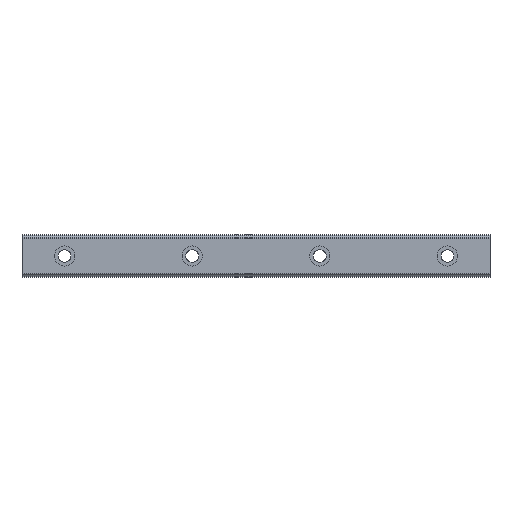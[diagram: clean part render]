
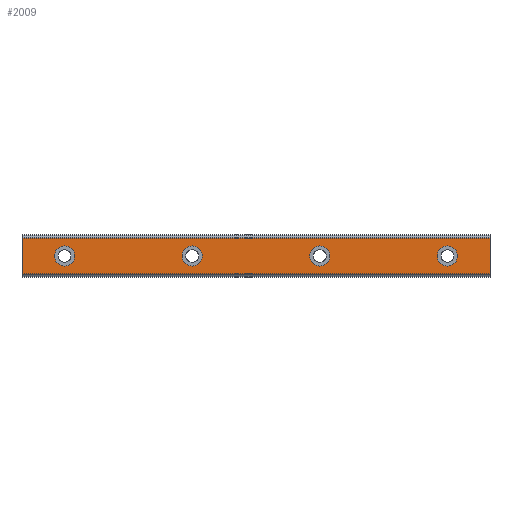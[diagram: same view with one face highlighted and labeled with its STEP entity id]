
A CAD part, top view. The second image highlights one B-rep face of the part: STEP entity #2009.
In plain terms, the highlighted planar face has unit normal (0, 0, 1).
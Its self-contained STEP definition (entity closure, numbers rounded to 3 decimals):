
#1662=CARTESIAN_POINT('POINT119',(200.,-8.334,
   15.5));
#1663=VERTEX_POINT('VERTEX119',#1662);
#1670=CARTESIAN_POINT('POINT120',(-20.,-8.334,
   15.5));
#1671=VERTEX_POINT('VERTEX120',#1670);
#1672=CARTESIAN_POINT('POS177',(-20.,-8.334,
   15.5));
#1673=DIRECTION('DIR274',(1.,0.,0.));
#1674=VECTOR('VEC80',#1673,1.);
#1675=LINE('STRAIGHT80',#1672,#1674);
#1676=EDGE_CURVE('EDGE178',#1671,#1663,#1675,.T.);
#1712=CARTESIAN_POINT('POINT121',(-20.,8.334,
   15.5));
#1713=VERTEX_POINT('VERTEX121',#1712);
#1714=CARTESIAN_POINT('POS180',(-20.,-8.334,
   15.5));
#1715=DIRECTION('DIR278',(0.,1.,0.));
#1716=VECTOR('VEC82',#1715,1.);
#1717=LINE('STRAIGHT82',#1714,#1716);
#1718=EDGE_CURVE('EDGE180',#1671,#1713,#1717,.T.);
#1751=CARTESIAN_POINT('POINT122',(200.,8.334,
   15.5));
#1752=VERTEX_POINT('VERTEX122',#1751);
#1761=CARTESIAN_POINT('POS184',(-20.,8.334,
   15.5));
#1762=DIRECTION('DIR283',(1.,0.,0.));
#1763=VECTOR('VEC85',#1762,1.);
#1764=LINE('STRAIGHT85',#1761,#1763);
#1765=EDGE_CURVE('EDGE183',#1713,#1752,#1764,.T.);
#1795=CARTESIAN_POINT('POS186',(200.,0.,
   15.5));
#1796=DIRECTION('DIR286',(0.,1.,0.));
#1797=VECTOR('VEC86',#1796,1.);
#1798=LINE('STRAIGHT86',#1795,#1797);
#1799=EDGE_CURVE('EDGE184',#1663,#1752,#1798,.T.);
#1826=CARTESIAN_POINT('POINT123',(64.75,0.,
   15.5));
#1827=VERTEX_POINT('VERTEX123',#1826);
#1835=CARTESIAN_POINT('POINT124',(55.25,0.,
   15.5));
#1836=VERTEX_POINT('VERTEX124',#1835);
#1843=CARTESIAN_POINT('POS190',(60.,0.,15.5));
#1844=DIRECTION('DIR291',(0.,0.,-1.));
#1845=DIRECTION('DIR292',(1.,0.,0.));
#1846=AXIS2_PLACEMENT_3D('AXIS102',#1843,#1844,#1845);
#1847=CIRCLE('ELLIPSE56',#1846,4.75);
#1848=EDGE_CURVE('EDGE187',#1827,#1836,#1847,.T.);
#1859=EDGE_CURVE('EDGE188',#1836,#1827,#1847,.T.);
#1866=CARTESIAN_POINT('POINT125',(124.75,0.,
   15.5));
#1867=VERTEX_POINT('VERTEX125',#1866);
#1875=CARTESIAN_POINT('POINT126',(115.25,0.,
   15.5));
#1876=VERTEX_POINT('VERTEX126',#1875);
#1883=CARTESIAN_POINT('POS194',(120.,0.,15.5));
#1884=DIRECTION('DIR297',(0.,0.,-1.));
#1885=DIRECTION('DIR298',(1.,0.,0.));
#1886=AXIS2_PLACEMENT_3D('AXIS104',#1883,#1884,#1885);
#1887=CIRCLE('ELLIPSE57',#1886,4.75);
#1888=EDGE_CURVE('EDGE191',#1867,#1876,#1887,.T.);
#1899=EDGE_CURVE('EDGE192',#1876,#1867,#1887,.T.);
#1906=CARTESIAN_POINT('POINT127',(184.75,0.,
   15.5));
#1907=VERTEX_POINT('VERTEX127',#1906);
#1915=CARTESIAN_POINT('POINT128',(175.25,0.,
   15.5));
#1916=VERTEX_POINT('VERTEX128',#1915);
#1923=CARTESIAN_POINT('POS198',(180.,0.,15.5));
#1924=DIRECTION('DIR303',(0.,0.,-1.));
#1925=DIRECTION('DIR304',(1.,0.,0.));
#1926=AXIS2_PLACEMENT_3D('AXIS106',#1923,#1924,#1925);
#1927=CIRCLE('ELLIPSE58',#1926,4.75);
#1928=EDGE_CURVE('EDGE195',#1907,#1916,#1927,.T.);
#1939=EDGE_CURVE('EDGE196',#1916,#1907,#1927,.T.);
#1971=ORIENTED_EDGE('COEDGE385',*,*,#1939,.T.);
#1972=ORIENTED_EDGE('COEDGE386',*,*,#1928,.T.);
#1973=EDGE_LOOP('NONE',(#1971,#1972));
#1974=FACE_BOUND('LOOP1',#1973,.T.);
#1975=ORIENTED_EDGE('COEDGE387',*,*,#1899,.T.);
#1976=ORIENTED_EDGE('COEDGE388',*,*,#1888,.T.);
#1977=EDGE_LOOP('NONE',(#1975,#1976));
#1978=FACE_BOUND('LOOP1',#1977,.T.);
#1979=ORIENTED_EDGE('COEDGE389',*,*,#1859,.T.);
#1980=ORIENTED_EDGE('COEDGE390',*,*,#1848,.T.);
#1981=EDGE_LOOP('NONE',(#1979,#1980));
#1982=FACE_BOUND('LOOP1',#1981,.T.);
#1983=CARTESIAN_POINT('POINT131',(-4.75,0.,
   15.5));
#1984=VERTEX_POINT('VERTEX131',#1983);
#1985=CARTESIAN_POINT('POINT132',(4.75,0.,
   15.5));
#1986=VERTEX_POINT('VERTEX132',#1985);
#1987=CARTESIAN_POINT('POS202',(0.,0.,15.5));
#1988=DIRECTION('DIR311',(0.,0.,-1.));
#1989=DIRECTION('DIR312',(1.,0.,0.));
#1990=AXIS2_PLACEMENT_3D('AXIS110',#1987,#1988,#1989);
#1991=CIRCLE('ELLIPSE60',#1990,4.75);
#1992=EDGE_CURVE('EDGE199',#1984,#1986,#1991,.T.);
#1993=ORIENTED_EDGE('COEDGE391',*,*,#1992,.T.);
#1994=EDGE_CURVE('EDGE200',#1986,#1984,#1991,.T.);
#1995=ORIENTED_EDGE('COEDGE392',*,*,#1994,.T.);
#1996=EDGE_LOOP('NONE',(#1993,#1995));
#1997=FACE_BOUND('LOOP1',#1996,.T.);
#1998=ORIENTED_EDGE('COEDGE393',*,*,#1799,.T.);
#1999=ORIENTED_EDGE('COEDGE394',*,*,#1765,.F.);
#2000=ORIENTED_EDGE('COEDGE395',*,*,#1718,.F.);
#2001=ORIENTED_EDGE('COEDGE396',*,*,#1676,.T.);
#2002=EDGE_LOOP('NONE',(#1998,#1999,#2000,#2001));
#2003=FACE_BOUND('LOOP1',#2002,.T.);
#2004=CARTESIAN_POINT('POS203',(-20.,0.,
   15.5));
#2005=DIRECTION('DIR313',(0.,0.,1.));
#2006=DIRECTION('DIR314',(1.,0.,0.));
#2007=AXIS2_PLACEMENT_3D('AXIS111',#2004,#2005,#2006);
#2008=PLANE('PLANE26',#2007);
#2009=ADVANCED_FACE('FACE70',(#1974,#1978,#1982,#1997,#2003),#2008,.T.);
